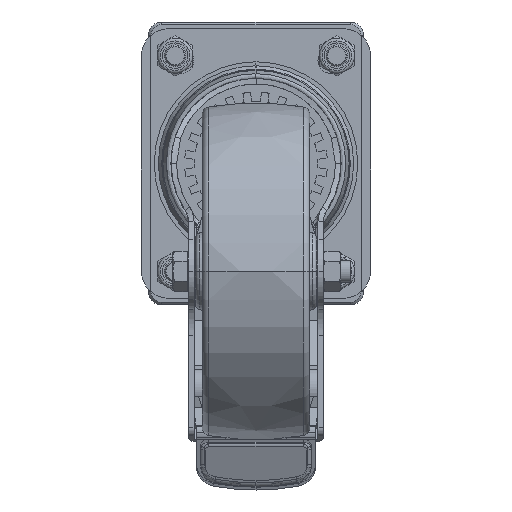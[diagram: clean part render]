
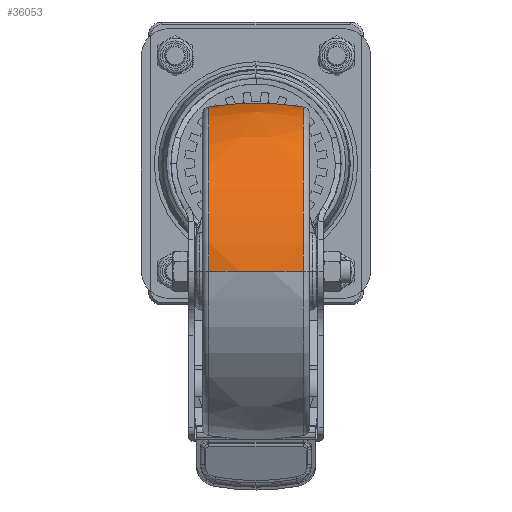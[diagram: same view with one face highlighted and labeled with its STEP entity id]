
A CAD part, front view. The second image highlights one B-rep face of the part: STEP entity #36053.
In plain terms, the highlighted free-form (B-spline) face has degree [3, 3] with [4, 4] control points.
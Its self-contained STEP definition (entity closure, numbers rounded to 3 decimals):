
#1388 = CARTESIAN_POINT ( 'NONE',  ( 63.021, -12.876, -63.931 ) ) ;
#2386 = DIRECTION ( 'NONE',  ( 0., -1., 0. ) ) ;
#3326 = CARTESIAN_POINT ( 'NONE',  ( 60.952, 10.553, 62.111 ) ) ;
#4399 = EDGE_CURVE ( 'NONE', #21087, #47248, #38825, .T. ) ;
#5178 = CARTESIAN_POINT ( 'NONE',  ( -63.021, -1.07, 62.111 ) ) ;
#5743 = AXIS2_PLACEMENT_3D ( 'NONE', #24907, #2386, #28689 ) ;
#5855 = ORIENTED_EDGE ( 'NONE', *, *, #19480, .T. ) ;
#7636 = CARTESIAN_POINT ( 'NONE',  ( -37.5, -6.973, 62.111 ) ) ;
#8920 = CARTESIAN_POINT ( 'NONE',  ( 63.021, -1.07, -63.931 ) ) ;
#9047 = CARTESIAN_POINT ( 'NONE',  ( 0., -24.499, 62.111 ) ) ;
#11118 = VERTEX_POINT ( 'NONE', #33349 ) ;
#11219 = CIRCLE ( 'NONE', #5743, 60.952 ) ;
#11436 = DIRECTION ( 'NONE',  ( 1., 0., 0. ) ) ;
#12402 = ORIENTED_EDGE ( 'NONE', *, *, #39446, .T. ) ;
#12669 = CARTESIAN_POINT ( 'NONE',  ( 37.5, -6.973, 62.111 ) ) ;
#12719 = CARTESIAN_POINT ( 'NONE',  ( -60.952, 10.553, 62.111 ) ) ;
#12765 = AXIS2_PLACEMENT_3D ( 'NONE', #9047, #35406, #12866 ) ;
#12866 = DIRECTION ( 'NONE',  ( 1., 0., 0. ) ) ;
#16356 = CARTESIAN_POINT ( 'NONE',  ( -60.952, -24.499, -59.793 ) ) ;
#16468 = DIRECTION ( 'NONE',  ( -1., 0., 0. ) ) ;
#16522 = CARTESIAN_POINT ( 'NONE',  ( 60.952, 10.553, -59.793 ) ) ;
#18377 =( BOUNDED_SURFACE ( )  B_SPLINE_SURFACE ( 3, 3, ( 
 ( #23427, #16356, #42627, #20147 ),
 ( #46454, #23896, #1388, #27692 ),
 ( #5178, #31483, #8920, #35251 ),
 ( #12719, #39006, #16522, #42787 ) ),
 .UNSPECIFIED., .F., .F., .F. ) 
 B_SPLINE_SURFACE_WITH_KNOTS ( ( 4, 4 ),
 ( 4, 4 ),
 ( 0., 1. ),
 ( 0., 1. ),
 .UNSPECIFIED. ) 
 GEOMETRIC_REPRESENTATION_ITEM ( )  RATIONAL_B_SPLINE_SURFACE ( (
 ( 1., 0.333, 0.333, 1.),
 ( 0.99, 0.33, 0.33, 0.99),
 ( 0.99, 0.33, 0.33, 0.99),
 ( 1., 0.333, 0.333, 1.) ) ) 
 REPRESENTATION_ITEM ( '' )  SURFACE ( )  );
#18804 = VERTEX_POINT ( 'NONE', #47300 ) ;
#19480 = EDGE_CURVE ( 'NONE', #11118, #47248, #11219, .T. ) ;
#20041 = ORIENTED_EDGE ( 'NONE', *, *, #29477, .T. ) ;
#20147 = CARTESIAN_POINT ( 'NONE',  ( 60.952, -24.499, 62.111 ) ) ;
#21087 = VERTEX_POINT ( 'NONE', #40665 ) ;
#23427 = CARTESIAN_POINT ( 'NONE',  ( -60.952, -24.499, 62.111 ) ) ;
#23896 = CARTESIAN_POINT ( 'NONE',  ( -63.021, -12.876, -63.931 ) ) ;
#24907 = CARTESIAN_POINT ( 'NONE',  ( 0., 10.553, 62.111 ) ) ;
#25516 = CIRCLE ( 'NONE', #12765, 60.952 ) ;
#27692 = CARTESIAN_POINT ( 'NONE',  ( 63.021, -12.876, 62.111 ) ) ;
#28689 = DIRECTION ( 'NONE',  ( 1., 0., 0. ) ) ;
#29477 = EDGE_CURVE ( 'NONE', #21087, #18804, #25516, .T. ) ;
#31483 = CARTESIAN_POINT ( 'NONE',  ( -63.021, -1.07, -63.931 ) ) ;
#33349 = CARTESIAN_POINT ( 'NONE',  ( -60.952, 10.553, 62.111 ) ) ;
#33959 = DIRECTION ( 'NONE',  ( 0., 0., 1. ) ) ;
#35251 = CARTESIAN_POINT ( 'NONE',  ( 63.021, -1.07, 62.111 ) ) ;
#35406 = DIRECTION ( 'NONE',  ( 0., 1., 0. ) ) ;
#36053 = ADVANCED_FACE ( 'NONE', ( #40408 ), #18377, .T. ) ;
#38825 = CIRCLE ( 'NONE', #46009, 100. ) ;
#38959 = DIRECTION ( 'NONE',  ( 0., 0., -1. ) ) ;
#39006 = CARTESIAN_POINT ( 'NONE',  ( -60.952, 10.553, -59.793 ) ) ;
#39446 = EDGE_CURVE ( 'NONE', #18804, #11118, #41628, .T. ) ;
#39865 = EDGE_LOOP ( 'NONE', ( #20041, #12402, #5855, #46968 ) ) ;
#40408 = FACE_OUTER_BOUND ( 'NONE', #39865, .T. ) ;
#40665 = CARTESIAN_POINT ( 'NONE',  ( 60.952, -24.499, 62.111 ) ) ;
#41628 = CIRCLE ( 'NONE', #44560, 100. ) ;
#42627 = CARTESIAN_POINT ( 'NONE',  ( 60.952, -24.499, -59.793 ) ) ;
#42787 = CARTESIAN_POINT ( 'NONE',  ( 60.952, 10.553, 62.111 ) ) ;
#44560 = AXIS2_PLACEMENT_3D ( 'NONE', #12669, #38959, #16468 ) ;
#46009 = AXIS2_PLACEMENT_3D ( 'NONE', #7636, #33959, #11436 ) ;
#46454 = CARTESIAN_POINT ( 'NONE',  ( -63.021, -12.876, 62.111 ) ) ;
#46968 = ORIENTED_EDGE ( 'NONE', *, *, #4399, .F. ) ;
#47248 = VERTEX_POINT ( 'NONE', #3326 ) ;
#47300 = CARTESIAN_POINT ( 'NONE',  ( -60.952, -24.499, 62.111 ) ) ;
